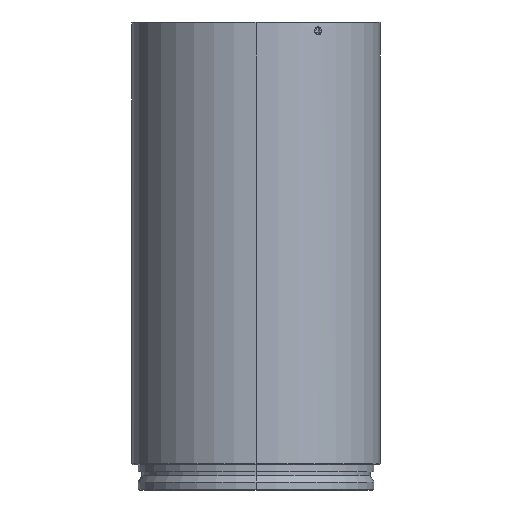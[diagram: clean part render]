
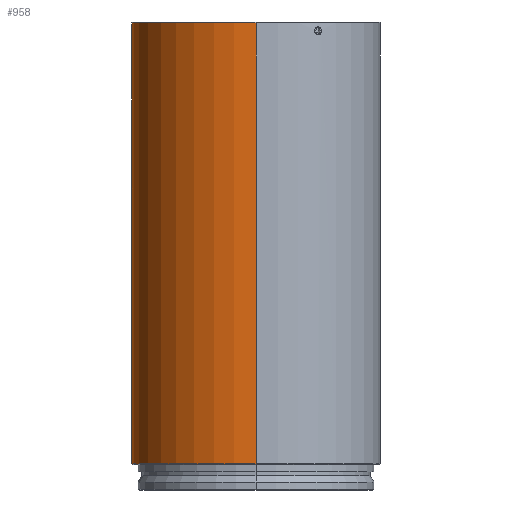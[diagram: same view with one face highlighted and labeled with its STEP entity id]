
A CAD part, left-side view. The second image highlights one B-rep face of the part: STEP entity #958.
In plain terms, the highlighted cylindrical face has radius 39 mm (diameter 78 mm), a partial arc.
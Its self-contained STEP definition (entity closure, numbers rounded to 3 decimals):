
#33 = CARTESIAN_POINT ( 'NONE',  ( 65.955, 134.402, 162.26 ) ) ;
#51 = CARTESIAN_POINT ( 'NONE',  ( 66.28, 134.403, 162.22 ) ) ;
#79 = B_SPLINE_CURVE_WITH_KNOTS ( 'NONE', 3,
 ( #2113, #481, #2553, #2501, #710, #1936, #266, #1312, #2125, #1105, #1523, #1093, #686, #279, #1074, #505, #33, #1878, #1116, #51 ),
 .UNSPECIFIED., .F., .F.,
 ( 4, 2, 2, 2, 2, 2, 2, 2, 2, 4 ),
 ( 0., 0., 0.001, 0.001, 0.002, 0.002, 0.003, 0.003, 0.004, 0.004 ),
 .UNSPECIFIED. ) ;
#113 = ORIENTED_EDGE ( 'NONE', *, *, #618, .F. ) ;
#130 = CARTESIAN_POINT ( 'NONE',  ( 67.53, 134.383, 163.634 ) ) ;
#142 = CYLINDRICAL_SURFACE ( 'NONE', #2540, 39. ) ;
#154 = DIRECTION ( 'NONE',  ( 1., 0., 0. ) ) ;
#205 = VERTEX_POINT ( 'NONE', #2438 ) ;
#217 = DIRECTION ( 'NONE',  ( 0., 0., 1. ) ) ;
#228 = CARTESIAN_POINT ( 'NONE',  ( 66.28, 134.403, 164.72 ) ) ;
#266 = CARTESIAN_POINT ( 'NONE',  ( 65.187, 134.388, 164.099 ) ) ;
#279 = CARTESIAN_POINT ( 'NONE',  ( 65.512, 134.396, 162.469 ) ) ;
#355 = CARTESIAN_POINT ( 'NONE',  ( 67.275, 134.39, 164.231 ) ) ;
#369 = CARTESIAN_POINT ( 'NONE',  ( 67.048, 134.396, 162.47 ) ) ;
#377 = B_SPLINE_CURVE_WITH_KNOTS ( 'NONE', 3,
 ( #1521, #1763, #746, #2541, #369, #1367, #1167, #1377, #1386, #130, #2199, #2012, #964, #355, #2622, #989, #1803, #1596, #796, #228 ),
 .UNSPECIFIED., .F., .F.,
 ( 4, 2, 2, 2, 2, 2, 2, 2, 2, 4 ),
 ( 0.004, 0.004, 0.005, 0.005, 0.006, 0.006, 0.007, 0.007, 0.007, 0.008 ),
 .UNSPECIFIED. ) ;
#412 = CARTESIAN_POINT ( 'NONE',  ( 27.28, 95.403, 158.087 ) ) ;
#481 = CARTESIAN_POINT ( 'NONE',  ( 66.114, 134.403, 164.72 ) ) ;
#485 = CARTESIAN_POINT ( 'NONE',  ( 66.28, 134.403, 164.72 ) ) ;
#500 = EDGE_CURVE ( 'NONE', #833, #668, #377, .T. ) ;
#505 = CARTESIAN_POINT ( 'NONE',  ( 65.877, 134.401, 162.284 ) ) ;
#550 = CARTESIAN_POINT ( 'NONE',  ( 66.28, 95.403, 27.642 ) ) ;
#618 = EDGE_CURVE ( 'NONE', #1796, #1059, #2534, .T. ) ;
#668 = VERTEX_POINT ( 'NONE', #485 ) ;
#686 = CARTESIAN_POINT ( 'NONE',  ( 65.279, 134.39, 162.703 ) ) ;
#710 = CARTESIAN_POINT ( 'NONE',  ( 65.511, 134.396, 164.469 ) ) ;
#735 = ORIENTED_EDGE ( 'NONE', *, *, #2576, .T. ) ;
#736 = AXIS2_PLACEMENT_3D ( 'NONE', #550, #974, #1804 ) ;
#746 = CARTESIAN_POINT ( 'NONE',  ( 66.607, 134.402, 162.253 ) ) ;
#756 = FACE_OUTER_BOUND ( 'NONE', #2568, .T. ) ;
#781 = CARTESIAN_POINT ( 'NONE',  ( 27.28, 95.403, 27.642 ) ) ;
#796 = CARTESIAN_POINT ( 'NONE',  ( 66.445, 134.403, 164.72 ) ) ;
#833 = VERTEX_POINT ( 'NONE', #2561 ) ;
#838 = CARTESIAN_POINT ( 'NONE',  ( 66.28, 95.403, 165.97 ) ) ;
#929 = DIRECTION ( 'NONE',  ( 0., 0., 1. ) ) ;
#958 = ADVANCED_FACE ( 'NONE', ( #1612, #756 ), #142, .T. ) ;
#964 = CARTESIAN_POINT ( 'NONE',  ( 67.365, 134.388, 164.095 ) ) ;
#969 = EDGE_CURVE ( 'NONE', #1796, #1255, #1679, .T. ) ;
#974 = DIRECTION ( 'NONE',  ( 0., 0., 1. ) ) ;
#989 = CARTESIAN_POINT ( 'NONE',  ( 67.049, 134.396, 164.468 ) ) ;
#1045 = VECTOR ( 'NONE', #929, 1000. ) ;
#1059 = VERTEX_POINT ( 'NONE', #1084 ) ;
#1074 = CARTESIAN_POINT ( 'NONE',  ( 65.65, 134.398, 162.378 ) ) ;
#1084 = CARTESIAN_POINT ( 'NONE',  ( 105.28, 95.403, 165.97 ) ) ;
#1093 = CARTESIAN_POINT ( 'NONE',  ( 65.187, 134.388, 162.841 ) ) ;
#1104 = ORIENTED_EDGE ( 'NONE', *, *, #500, .T. ) ;
#1105 = CARTESIAN_POINT ( 'NONE',  ( 65.03, 134.383, 163.307 ) ) ;
#1116 = CARTESIAN_POINT ( 'NONE',  ( 66.198, 134.403, 162.22 ) ) ;
#1138 = ORIENTED_EDGE ( 'NONE', *, *, #2239, .T. ) ;
#1167 = CARTESIAN_POINT ( 'NONE',  ( 67.371, 134.388, 162.839 ) ) ;
#1255 = VERTEX_POINT ( 'NONE', #781 ) ;
#1290 = CARTESIAN_POINT ( 'NONE',  ( 105.28, 95.403, 158.087 ) ) ;
#1312 = CARTESIAN_POINT ( 'NONE',  ( 65.063, 134.384, 163.798 ) ) ;
#1313 = EDGE_LOOP ( 'NONE', ( #1433, #1104 ) ) ;
#1337 = VECTOR ( 'NONE', #217, 1000. ) ;
#1359 = AXIS2_PLACEMENT_3D ( 'NONE', #838, #2100, #1868 ) ;
#1367 = CARTESIAN_POINT ( 'NONE',  ( 67.278, 134.39, 162.7 ) ) ;
#1377 = CARTESIAN_POINT ( 'NONE',  ( 67.497, 134.384, 163.141 ) ) ;
#1386 = CARTESIAN_POINT ( 'NONE',  ( 67.53, 134.383, 163.304 ) ) ;
#1433 = ORIENTED_EDGE ( 'NONE', *, *, #1937, .T. ) ;
#1521 = CARTESIAN_POINT ( 'NONE',  ( 66.28, 134.403, 162.22 ) ) ;
#1523 = CARTESIAN_POINT ( 'NONE',  ( 65.062, 134.384, 163.143 ) ) ;
#1596 = CARTESIAN_POINT ( 'NONE',  ( 66.609, 134.402, 164.687 ) ) ;
#1612 = FACE_BOUND ( 'NONE', #1313, .T. ) ;
#1679 = CIRCLE ( 'NONE', #736, 39. ) ;
#1702 = LINE ( 'NONE', #412, #1337 ) ;
#1763 = CARTESIAN_POINT ( 'NONE',  ( 66.443, 134.403, 162.22 ) ) ;
#1787 = CARTESIAN_POINT ( 'NONE',  ( 66.28, 95.403, 158.087 ) ) ;
#1796 = VERTEX_POINT ( 'NONE', #2265 ) ;
#1803 = CARTESIAN_POINT ( 'NONE',  ( 66.91, 134.398, 164.562 ) ) ;
#1804 = DIRECTION ( 'NONE',  ( 1., 0., 0. ) ) ;
#1868 = DIRECTION ( 'NONE',  ( -1., 0., 0. ) ) ;
#1878 = CARTESIAN_POINT ( 'NONE',  ( 66.115, 134.403, 162.228 ) ) ;
#1936 = CARTESIAN_POINT ( 'NONE',  ( 65.28, 134.39, 164.238 ) ) ;
#1937 = EDGE_CURVE ( 'NONE', #668, #833, #79, .T. ) ;
#2012 = CARTESIAN_POINT ( 'NONE',  ( 67.403, 134.387, 164.023 ) ) ;
#2080 = CIRCLE ( 'NONE', #1359, 39. ) ;
#2091 = ORIENTED_EDGE ( 'NONE', *, *, #969, .T. ) ;
#2100 = DIRECTION ( 'NONE',  ( 0., 0., -1. ) ) ;
#2113 = CARTESIAN_POINT ( 'NONE',  ( 66.28, 134.403, 164.72 ) ) ;
#2125 = CARTESIAN_POINT ( 'NONE',  ( 65.03, 134.383, 163.633 ) ) ;
#2199 = CARTESIAN_POINT ( 'NONE',  ( 67.498, 134.384, 163.796 ) ) ;
#2239 = EDGE_CURVE ( 'NONE', #1255, #205, #1702, .T. ) ;
#2265 = CARTESIAN_POINT ( 'NONE',  ( 105.28, 95.403, 27.642 ) ) ;
#2390 = DIRECTION ( 'NONE',  ( 0., 0., 1. ) ) ;
#2438 = CARTESIAN_POINT ( 'NONE',  ( 27.28, 95.403, 165.97 ) ) ;
#2501 = CARTESIAN_POINT ( 'NONE',  ( 65.65, 134.398, 164.562 ) ) ;
#2534 = LINE ( 'NONE', #1290, #1045 ) ;
#2540 = AXIS2_PLACEMENT_3D ( 'NONE', #1787, #2390, #154 ) ;
#2541 = CARTESIAN_POINT ( 'NONE',  ( 66.908, 134.398, 162.377 ) ) ;
#2553 = CARTESIAN_POINT ( 'NONE',  ( 65.952, 134.402, 164.687 ) ) ;
#2561 = CARTESIAN_POINT ( 'NONE',  ( 66.28, 134.403, 162.22 ) ) ;
#2568 = EDGE_LOOP ( 'NONE', ( #2091, #1138, #735, #113 ) ) ;
#2576 = EDGE_CURVE ( 'NONE', #205, #1059, #2080, .T. ) ;
#2622 = CARTESIAN_POINT ( 'NONE',  ( 67.222, 134.392, 164.295 ) ) ;
